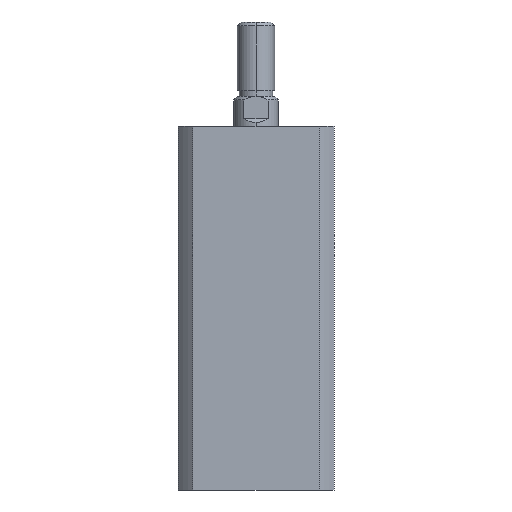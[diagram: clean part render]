
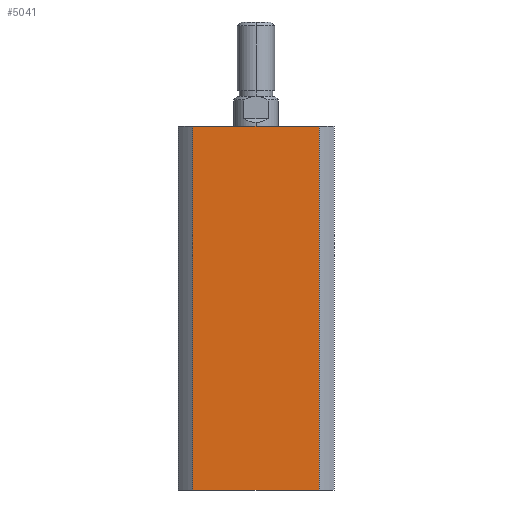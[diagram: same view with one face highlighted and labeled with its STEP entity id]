
A CAD part, left-side view. The second image highlights one B-rep face of the part: STEP entity #5041.
In plain terms, the highlighted planar face has unit normal (-1, 0, 0).
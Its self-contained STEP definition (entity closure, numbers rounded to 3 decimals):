
#292 = CARTESIAN_POINT ( 'NONE',  ( -21., 21., 98. ) ) ;
#293 = DIRECTION ( 'NONE',  ( 0., -1., 0. ) ) ;
#464 = AXIS2_PLACEMENT_3D ( 'NONE', #2488, #2483, #2481 ) ;
#524 = LINE ( 'NONE', #3430, #525 ) ;
#525 = VECTOR ( 'NONE', #3425, 1000. ) ;
#531 = LINE ( 'NONE', #3409, #703 ) ;
#566 = LINE ( 'NONE', #292, #790 ) ;
#590 = LINE ( 'NONE', #3187, #593 ) ;
#593 = VECTOR ( 'NONE', #3200, 1000. ) ;
#703 = VECTOR ( 'NONE', #3403, 1000. ) ;
#790 = VECTOR ( 'NONE', #293, 1000. ) ;
#1317 = VERTEX_POINT ( 'NONE', #3253 ) ;
#1346 = VERTEX_POINT ( 'NONE', #3591 ) ;
#1368 = VERTEX_POINT ( 'NONE', #3568 ) ;
#1388 = VERTEX_POINT ( 'NONE', #3548 ) ;
#1519 = EDGE_LOOP ( 'NONE', ( #1853, #1854, #1820, #2027 ) ) ;
#1820 = ORIENTED_EDGE ( 'NONE', *, *, #2669, .F. ) ;
#1853 = ORIENTED_EDGE ( 'NONE', *, *, #2660, .F. ) ;
#1854 = ORIENTED_EDGE ( 'NONE', *, *, #2787, .F. ) ;
#2027 = ORIENTED_EDGE ( 'NONE', *, *, #2724, .T. ) ;
#2481 = DIRECTION ( 'NONE',  ( 0., 1., 0. ) ) ;
#2483 = DIRECTION ( 'NONE',  ( 1., 0., 0. ) ) ;
#2486 = PLANE ( 'NONE',  #464 ) ;
#2488 = CARTESIAN_POINT ( 'NONE',  ( -21., 21., 98. ) ) ;
#2660 = EDGE_CURVE ( 'NONE', #1368, #1388, #524, .T. ) ;
#2669 = EDGE_CURVE ( 'NONE', #1317, #1346, #531, .T. ) ;
#2724 = EDGE_CURVE ( 'NONE', #1317, #1388, #590, .T. ) ;
#2787 = EDGE_CURVE ( 'NONE', #1346, #1368, #566, .T. ) ;
#3187 = CARTESIAN_POINT ( 'NONE',  ( -21., 21., 0. ) ) ;
#3200 = DIRECTION ( 'NONE',  ( 0., -1., 0. ) ) ;
#3253 = CARTESIAN_POINT ( 'NONE',  ( -21., 16.971, 0. ) ) ;
#3403 = DIRECTION ( 'NONE',  ( 0., 0., 1. ) ) ;
#3409 = CARTESIAN_POINT ( 'NONE',  ( -21., 16.971, 98. ) ) ;
#3425 = DIRECTION ( 'NONE',  ( 0., 0., -1. ) ) ;
#3430 = CARTESIAN_POINT ( 'NONE',  ( -21., -16.971, 98. ) ) ;
#3548 = CARTESIAN_POINT ( 'NONE',  ( -21., -16.971, 0. ) ) ;
#3568 = CARTESIAN_POINT ( 'NONE',  ( -21., -16.971, 98. ) ) ;
#3591 = CARTESIAN_POINT ( 'NONE',  ( -21., 16.971, 98. ) ) ;
#4703 = FACE_OUTER_BOUND ( 'NONE', #1519, .T. ) ;
#5041 = ADVANCED_FACE ( 'NONE', ( #4703 ), #2486, .F. ) ;
